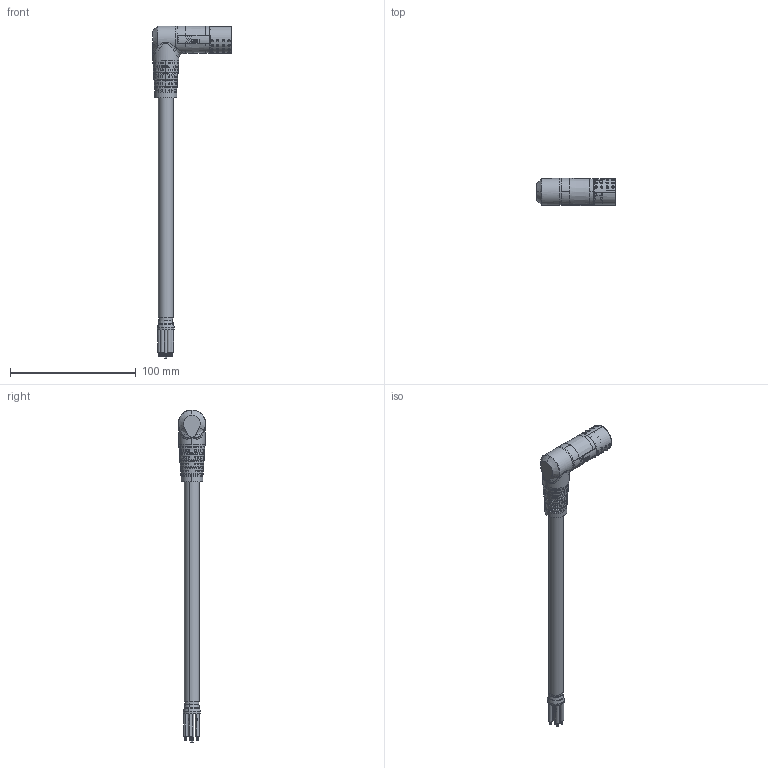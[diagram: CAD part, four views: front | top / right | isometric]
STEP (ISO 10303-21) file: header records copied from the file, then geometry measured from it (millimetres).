
FILE_DESCRIPTION (( 'STEP AP214' ), '1' );
FILE_NAME ('W-TEC 15M GLATT-BU_90°L.STEP', '2021-07-01T14:58:22', ( '' ), ( '' ), 'SwSTEP 2.0', 'SolidWorks 2021', '' );
FILE_SCHEMA (( 'AUTOMOTIVE_DESIGN' ));
Length unit declared in the file: millimetre
Products named in the file (1): W-TEC 15M GLATT-BU_90袂
Bounding box: 62.81 x 21.83 x 264.31 mm (x, y, z)
Surface area: 22038.1 mm2 (no closed solid volume)
Topology: 0 solids, 5 shells, 1959 faces, 4690 edges, 3062 vertices
Faces by surface type: cylinder 875, plane 599, bspline 440, cone 44, torus 1
Entity records: 106387 total; most frequent: CARTESIAN_POINT 41830, ORIENTED_EDGE 9173, DIRECTION 8431, EDGE_CURVE 4625, AXIS2_PLACEMENT_3D 3525, VERTEX_POINT 3062, EDGE_LOOP 2371, CIRCLE 2005
